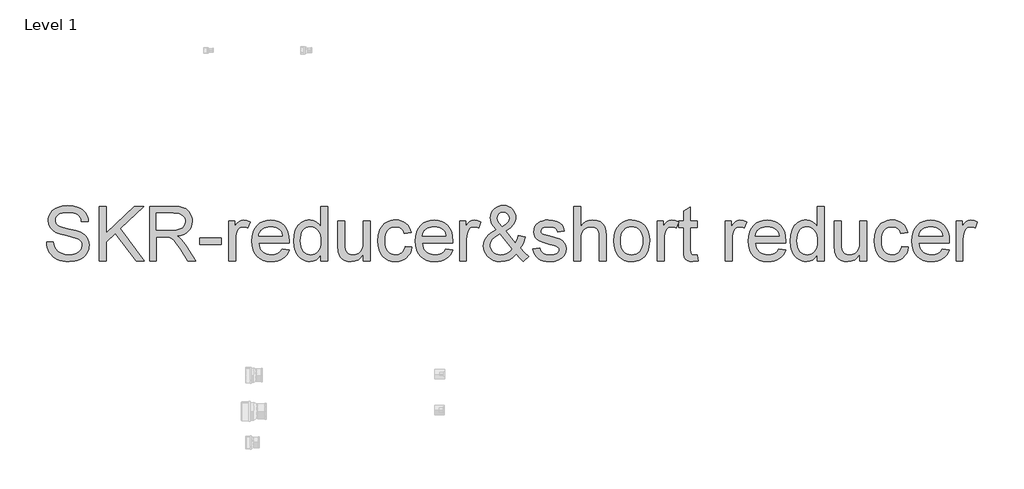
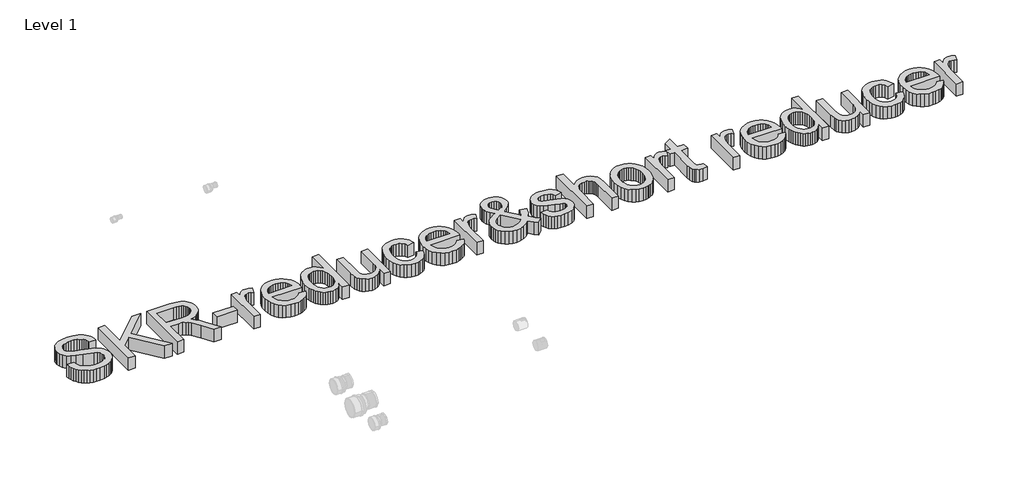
# One storey, part 13 of 29: 1 proxy.
"""IFC4 building model written with IfcOpenShell, lengths in millimetres."""

from ifc_helpers import new_model, si_unit, origin, origin_with_axes, place, context, project, spatial, polyline, outline, extrude, element, save

model = new_model("IFC4")

# Units and contexts
model_context = context("Model", 3, world=origin())
ifc_project = project(units=[si_unit("LENGTHUNIT", "METRE", prefix="MILLI")], contexts=[model_context])

# Site, building, storey
site = spatial("IfcSite", under=ifc_project)
building = spatial("IfcBuilding", under=site)
storey = spatial("IfcBuildingStorey", under=building, Name="Level 1", Elevation=0.0)

# Proxy
placement = place(None, origin())
element("IfcBuildingElementProxy", 1, Name="600mm Arial", ObjectType="600mm Arial", at=placement, inside=storey, context=model_context, shape_type="SweptSolid", body=[
    extrude(outline(polyline([(-4280.3714244, -4387.033633), (-4205.0291917, -4387.033633), (-4196.3839649, -4428.8434217), (-4180.7489801, -4462.449442), (-4156.3584038, -4489.1208867), (-4121.4464024, -4510.1269486), (-4078.772091, -4523.7569765), (-4031.0945844, -4528.3003191), (-3989.1192488, -4524.8606225), (-3952.3678375, -4514.5415325), (-3922.5877899, -4498.2075719), (-3901.5265457, -4476.7232634), (-3889.0001638, -4452.0567756), (-3884.8247031, -4426.1762773), (-3887.9517001, -4400.9579665), (-3897.332691, -4379.1609583), (-3916.3889783, -4360.5645234), (-3948.5418647, -4344.9479327), (-4058.2442757, -4316.1795607), (-4130.2571762, -4297.1416675), (-4176.3343961, -4279.0234792), (-4213.8399655, -4253.6764097), (-4240.4194397, -4222.9582631), (-4256.2567596, -4187.531227), (-4261.5358662, -4148.0574889), (-4259.9033898, -4125.6212857), (-4255.0059608, -4103.9300436), (-4246.843579, -4082.9837625), (-4235.4162445, -4062.7824424), (-4220.8527161, -4044.1492194), (-4203.2817523, -4027.9072293), (-4182.7033532, -4014.0564722), (-4159.1175187, -4002.596948), (-4106.1057232, -3987.2010865), (-4047.428545, -3982.0691327), (-3983.8585362, -3987.4402098), (-3928.2347786, -4003.5534412), (-3903.8993846, -4015.5555913), (-3882.5438348, -4030.0777331), (-3864.1681291, -4047.1198665), (-3848.7722676, -4066.6819916), (-3836.4758119, -4088.1938913), (-3827.3983237, -4111.0853484), (-3821.5398029, -4135.356363), (-3818.9002496, -4161.0069352), (-3894.2424822, -4161.0069352), (-3899.2824656, -4136.9658468), (-3908.0748452, -4116.0517553), (-3920.6196213, -4098.2646609), (-3936.9167937, -4083.6045634), (-3957.269865, -4072.1450392), (-3981.9823381, -4063.9596648), (-4011.0542127, -4059.0484402), (-4044.485489, -4057.4113653), (-4078.9836231, -4059.0300461), (-4108.460168, -4063.8860884), (-4132.9151236, -4071.9794923), (-4152.34849, -4083.3102578), (-4167.1557403, -4096.9310886), (-4177.7323477, -4111.8946888), (-4184.0783121, -4128.2010582), (-4186.1936336, -4145.850197), (-4184.6945145, -4161.0345263), (-4180.1971571, -4174.80251), (-4172.7015614, -4187.154148), (-4162.2077275, -4198.0894403), (-4145.6898259, -4208.4453184), (-4119.6805689, -4218.9115612), (-4039.1879883, -4240.1751405), (-3956.1202338, -4260.3718621), (-3905.8675533, -4277.9934096), (-3862.9173303, -4305.3270419), (-3846.3120568, -4321.394288), (-3832.9533418, -4339.0618208), (-3822.6848356, -4358.2376698), (-3815.3501884, -4378.8298645), (-3809.4824705, -4424.2632909), (-3811.1701292, -4447.8307312), (-3816.2331051, -4470.7083928), (-3824.6713984, -4492.8962756), (-3836.485009, -4514.3943797), (-3851.4670032, -4534.3703721), (-3869.4104475, -4551.9919196), (-3890.3153419, -4567.2590224), (-3914.1816864, -4580.1716805), (-3940.3151036, -4590.4401867), (-3968.0212163, -4597.7748339), (-4028.1515285, -4603.6425518), (-4066.691766, -4602.0606592), (-4101.9670508, -4597.3149814), (-4133.9773829, -4589.4055185), (-4162.7227623, -4578.3322705), (-4188.3779329, -4564.0768432), (-4211.1176388, -4546.6208425), (-4230.9418798, -4525.9642685), (-4247.850656, -4502.1071211), (-4261.4714869, -4475.8219525), (-4271.4318919, -4447.881315), (-4277.731871, -4418.2852085), (-4280.3714244, -4387.033633)])), origin_with_axes(), (0.0, 0.0, 1.0), 150.0),
    extrude(outline(polyline([(-3696.4691216, -4594.2247727), (-3696.4691216, -3991.4869118), (-3621.126889, -3991.4869118), (-3621.126889, -4286.5282719), (-3312.106013, -3991.4869118), (-3206.7446096, -3991.4869118), (-3466.1749926, -4239.2922237), (-3197.3268306, -4594.2247727), (-3289.4444821, -4594.2247727), (-3519.5914583, -4290.2070919), (-3621.126889, -4387.033633), (-3621.126889, -4594.2247727), (-3696.4691216, -4594.2247727)])), origin_with_axes(), (0.0, 0.0, 1.0), 150.0),
    extrude(outline(polyline([(-3140.8201561, -4594.2247727), (-3140.8201561, -3991.4869118), (-2881.0954675, -3991.4869118), (-2811.2898589, -3995.5520078), (-2760.5037495, -4007.747296), (-2740.9048362, -4017.4409865), (-2723.3844562, -4030.2616741), (-2707.9426094, -4046.2093586), (-2694.5792959, -4065.28404), (-2683.795755, -4086.4602474), (-2676.0932257, -4108.7125095), (-2671.4717081, -4132.0408266), (-2669.9312023, -4156.4451984), (-2672.4833836, -4187.4024683), (-2680.1399276, -4215.8213524), (-2692.9008343, -4241.7018508), (-2710.7661037, -4265.0439634), (-2733.9656621, -4285.1027292), (-2762.7294356, -4301.1331871), (-2797.0574242, -4313.1353372), (-2836.9496281, -4321.1091795), (-2812.1175934, -4337.3327754), (-2794.1281638, -4353.3356422), (-2763.2628644, -4389.9399008), (-2733.0597526, -4430.8851668), (-2632.5543916, -4594.2247727), (-2720.1103064, -4594.2247727), (-2798.5427478, -4469.2920471), (-2855.196575, -4386.5921746), (-2876.2578193, -4362.4775098), (-2895.0014069, -4347.5231067), (-2930.8331132, -4333.1757089), (-2974.5374943, -4330.5269585), (-3065.4779235, -4330.5269585), (-3065.4779235, -4594.2247727), (-3140.8201561, -4594.2247727)]), holes=[polyline([(-3065.4779235, -4255.1847259), (-2896.8408169, -4255.1847259), (-2848.4091522, -4252.5175815), (-2810.8300064, -4244.5161481), (-2782.539881, -4230.6469968), (-2761.9752775, -4210.3766989), (-2749.4488955, -4185.8573639), (-2745.2734349, -4159.2411016), (-2747.2645962, -4139.9732821), (-2753.2380801, -4122.4896903), (-2763.1938866, -4106.7903261), (-2777.1320157, -4092.8751897), (-2795.3743641, -4081.4800448), (-2818.2428286, -4073.3406557), (-2845.7374092, -4068.4570222), (-2877.8581059, -4066.8291444), (-3065.4779235, -4066.8291444), (-3065.4779235, -4255.1847259)])]), origin_with_axes(), (0.0, 0.0, 1.0), 150.0),
    extrude(outline(polyline([(-2585.1711906, -4415.2869702), (-2585.1711906, -4339.9447376), (-2349.7267137, -4339.9447376), (-2349.7267137, -4415.2869702), (-2585.1711906, -4415.2869702)])), origin_with_axes(), (0.0, 0.0, 1.0), 150.0),
    extrude(outline(polyline([(-2264.966702, -4594.2247727), (-2264.966702, -4151.5891561), (-2199.0422484, -4151.5891561), (-2199.0422484, -4217.0721512), (-2174.6884604, -4179.1067293), (-2152.2476587, -4156.739504), (-2129.7332806, -4145.8134088), (-2105.1587633, -4142.171377), (-2067.6347998, -4147.9839125), (-2029.5222251, -4165.4215191), (-2054.6853535, -4232.9646534), (-2081.1728572, -4221.3763706), (-2107.6603608, -4217.5136096), (-2130.1563448, -4221.2292178), (-2150.2610959, -4232.3760422), (-2166.503086, -4250.1079544), (-2177.4107871, -4273.5788257), (-2186.5710488, -4315.6645259), (-2189.6244694, -4361.5761989), (-2189.6244694, -4594.2247727), (-2264.966702, -4594.2247727)])), origin_with_axes(), (0.0, 0.0, 1.0), 150.0),
    extrude(outline(polyline([(-1672.5295369, -4462.3758656), (-1598.6588323, -4471.7936447), (-1609.9849992, -4501.3805541), (-1625.2750947, -4527.4541906), (-1644.5291186, -4550.0145539), (-1667.747071, -4569.0616442), (-1694.6898286, -4584.1907913), (-1725.1182682, -4594.9973249), (-1759.0323896, -4601.481245), (-1796.4321929, -4603.6425518), (-1843.1807975, -4599.913148), (-1884.8342364, -4588.7249368), (-1921.3925096, -4570.0779182), (-1952.8556173, -4543.9720921), (-1978.1567015, -4511.1340255), (-1996.2289045, -4472.2902854), (-2007.0722263, -4427.4408716), (-2010.6866669, -4376.5857843), (-2007.0354381, -4324.0062502), (-1996.0817517, -4277.6623158), (-1977.8256077, -4237.5539813), (-1952.2670061, -4203.6812466), (-1920.8866719, -4176.7706787), (-1885.1653302, -4157.5488444), (-1845.1029809, -4146.0157439), (-1800.6996241, -4142.171377), (-1757.7264085, -4146.0065468), (-1718.8642742, -4157.5120562), (-1684.1132213, -4176.6879052), (-1653.4732496, -4203.5340938), (-1628.4618724, -4237.3332521), (-1610.5966031, -4277.3680102), (-1599.8774414, -4323.6383682), (-1596.3043875, -4376.1443259), (-1596.7458459, -4396.4514121), (-1935.3444343, -4396.4514121), (-1930.9804341, -4426.5165681), (-1922.3030176, -4452.8477219), (-1909.3121846, -4475.4448735), (-1892.0079353, -4494.3080228), (-1871.3467627, -4509.1796524), (-1848.2851601, -4519.8022451), (-1822.8231275, -4526.1758006), (-1794.9606649, -4528.3003191), (-1754.8615275, -4524.3639818), (-1721.0899603, -4512.5549697), (-1693.6459635, -4492.137519), (-1672.5295369, -4462.3758656)]), holes=[polyline([(-1935.3444343, -4321.1091795), (-1671.6466202, -4321.1091795), (-1681.8369514, -4281.3043476), (-1690.60174, -4265.6509687), (-1701.8129438, -4252.8302812), (-1722.3591532, -4237.3792374), (-1745.738054, -4226.3427775), (-1771.9496461, -4219.7209016), (-1800.9939297, -4217.5136096), (-1827.4860318, -4219.2748447), (-1851.7800391, -4224.5585498), (-1873.8759514, -4233.3647251), (-1893.7737688, -4245.6933704), (-1910.4710129, -4260.9742688), (-1922.9652052, -4278.6372031), (-1931.2563456, -4298.6821733), (-1935.3444343, -4321.1091795)])]), origin_with_axes(), (0.0, 0.0, 1.0), 150.0),
    extrude(outline(polyline([(-1247.8465617, -4594.2247727), (-1247.8465617, -4523.1499712), (-1270.388531, -4558.3654752), (-1297.6945721, -4583.5194066), (-1329.764685, -4598.6117655), (-1366.5988698, -4603.6425518), (-1391.4676926, -4601.8215359), (-1415.3064459, -4596.3584882), (-1438.1151296, -4587.2534089), (-1459.8937437, -4574.5062977), (-1479.9617066, -4558.4988324), (-1497.6384364, -4539.6126905), (-1512.9239333, -4517.847872), (-1525.8181973, -4493.2043768), (-1536.0545138, -4466.1512546), (-1543.3661684, -4437.1575548), (-1549.2154922, -4373.3484228), (-1543.8260209, -4310.330237), (-1527.6576072, -4253.4188923), (-1515.5358955, -4228.0626258), (-1500.7286452, -4205.8517504), (-1483.2358563, -4186.786266), (-1463.0575289, -4170.8661726), (-1440.9064343, -4158.3121995), (-1417.4953438, -4149.3450759), (-1392.8242575, -4143.9648017), (-1366.8931754, -4142.171377), (-1330.0313994, -4147.3033308), (-1297.4370547, -4162.6991923), (-1269.8091168, -4186.2988223), (-1247.8465617, -4216.0420816), (-1247.8465617, -3991.4869118), (-1172.5043291, -3991.4869118), (-1172.5043291, -4594.2247727), (-1247.8465617, -4594.2247727)]), holes=[polyline([(-1473.8732595, -4373.0541172), (-1471.748741, -4409.5893978), (-1465.3751855, -4441.2042568), (-1454.7525928, -4467.8986941), (-1439.8809632, -4489.6727096), (-1422.1214599, -4506.5722888), (-1402.8352463, -4518.6434168), (-1382.0223224, -4525.8860935), (-1359.6826882, -4528.3003191), (-1337.237288, -4525.9964581), (-1316.5485243, -4519.0848752), (-1297.6163971, -4507.5655702), (-1280.4409065, -4491.4385432), (-1266.1808806, -4470.5750356), (-1255.9951479, -4444.8462885), (-1249.8837083, -4414.2523021), (-1247.8465617, -4378.7930763), (-1249.9204965, -4339.9171465), (-1256.1423007, -4306.5778406), (-1266.5119744, -4278.7751589), (-1281.0295177, -4256.5091011), (-1298.5820874, -4239.4485736), (-1318.0568405, -4227.2624825), (-1339.453777, -4219.9508278), (-1362.772897, -4217.5136096), (-1385.5539896, -4219.8542588), (-1406.3669134, -4226.8762064), (-1425.2116686, -4238.5794524), (-1442.0882552, -4254.9639967), (-1455.9941946, -4276.3885244), (-1465.9270085, -4303.2117204), (-1471.8866968, -4335.4335846), (-1473.8732595, -4373.0541172)])]), origin_with_axes(), (0.0, 0.0, 1.0), 150.0),
    extrude(outline(polyline([(-776.9576079, -4594.2247727), (-776.9576079, -4518.1467761), (-804.2176637, -4555.5511779), (-835.9658799, -4582.2686078), (-872.2022564, -4598.2990658), (-912.9267933, -4603.6425518), (-949.6230223, -4599.8901554), (-983.7808656, -4588.6329664), (-1012.438873, -4571.7103946), (-1032.6355945, -4550.96185), (-1046.2288343, -4525.7619334), (-1055.0763962, -4495.4852452), (-1059.4909802, -4425.4405133), (-1059.4909802, -4151.5891561), (-984.1487476, -4151.5891561), (-984.1487476, -4389.976689), (-983.0083134, -4437.6541955), (-979.5870108, -4466.7904495), (-968.6057333, -4492.4134305), (-949.7885692, -4511.8927822), (-924.3863175, -4524.1984349), (-893.6497768, -4528.3003191), (-861.1474025, -4524.1064644), (-830.7419556, -4511.5249002), (-805.6707976, -4491.7144547), (-789.1712901, -4465.8339564), (-780.0110284, -4430.3885261), (-776.9576079, -4381.8832851), (-776.9576079, -4151.5891561), (-701.6153753, -4151.5891561), (-701.6153753, -4594.2247727), (-776.9576079, -4594.2247727)])), origin_with_axes(), (0.0, 0.0, 1.0), 150.0),
    extrude(outline(polyline([(-315.4864331, -4434.1225284), (-240.1442005, -4443.5403075), (-248.338772, -4479.0915038), (-261.1502624, -4510.5500129), (-278.578672, -4537.9158348), (-300.6240005, -4561.1889695), (-326.3573461, -4579.7624117), (-354.8498066, -4593.0291562), (-386.1013821, -4600.9892029), (-420.1120726, -4603.6425518), (-462.3679182, -4599.9407392), (-500.2551652, -4588.8353014), (-533.7738135, -4570.3262386), (-562.9238631, -4544.4135505), (-586.5188946, -4511.584681), (-603.3724885, -4472.3270736), (-613.4846448, -4426.6407283), (-616.8553636, -4374.5256452), (-611.0980104, -4307.4791515), (-603.9013188, -4277.3082294), (-593.8259507, -4249.3721904), (-580.8029281, -4224.2320546), (-564.7632731, -4202.4488419), (-545.7069857, -4184.0225525), (-523.634066, -4168.9531863), (-499.5423938, -4157.2361447), (-474.4298492, -4148.8668293), (-448.2964319, -4143.8452401), (-421.1421422, -4142.171377), (-387.7154644, -4144.4706395), (-357.4801629, -4151.3684269), (-330.4362377, -4162.8647392), (-306.5836889, -4178.9595765), (-286.3271865, -4199.2850568), (-270.0714008, -4223.4732979), (-257.8163319, -4251.5243001), (-249.5619796, -4283.4380632), (-324.9042122, -4292.8558422), (-338.5710283, -4259.985586), (-359.8530018, -4236.4227442), (-387.5729101, -4222.2408933), (-420.553531, -4217.5136096), (-446.1535193, -4219.8404632), (-469.242713, -4226.8210241), (-489.8211121, -4238.4552922), (-507.8887166, -4254.7432675), (-522.5993979, -4276.0620291), (-533.1070274, -4302.7886561), (-539.4116051, -4334.9231484), (-541.513131, -4372.465506), (-539.4575903, -4410.5734822), (-533.2909684, -4443.080455), (-523.0132651, -4469.9864244), (-508.6244806, -4491.2913904), (-490.9155611, -4507.4827967), (-470.6774528, -4519.048087), (-447.9101558, -4525.9872611), (-422.6136701, -4528.3003191), (-383.5997845, -4522.5245718), (-366.7277965, -4515.3048877), (-351.6124451, -4505.1973298), (-338.6767944, -4492.0915338), (-328.3439089, -4475.8771348), (-320.6137884, -4456.554133), (-315.4864331, -4434.1225284)])), origin_with_axes(), (0.0, 0.0, 1.0), 150.0),
    extrude(outline(polyline([(135.6840457, -4462.3758656), (209.5547504, -4471.7936447), (198.2285835, -4501.3805541), (182.938488, -4527.4541906), (163.6844641, -4550.0145539), (140.4665117, -4569.0616442), (113.5237541, -4584.1907913), (83.0953145, -4594.9973249), (49.1811931, -4601.481245), (11.7813898, -4603.6425518), (-34.9672148, -4599.913148), (-76.6206537, -4588.7249368), (-113.1789269, -4570.0779182), (-144.6420346, -4543.9720921), (-169.9431188, -4511.1340255), (-188.0153218, -4472.2902854), (-198.8586436, -4427.4408716), (-202.4730842, -4376.5857843), (-198.8218554, -4324.0062502), (-187.868169, -4277.6623158), (-169.612025, -4237.5539813), (-144.0534234, -4203.6812466), (-112.6730892, -4176.7706787), (-76.9517475, -4157.5488444), (-36.8893982, -4146.0157439), (7.5139586, -4142.171377), (50.4871742, -4146.0065468), (89.3493085, -4157.5120562), (124.1003614, -4176.6879052), (154.7403331, -4203.5340938), (179.7517102, -4237.3332521), (197.6169796, -4277.3680102), (208.3361413, -4323.6383682), (211.9091951, -4376.1443259), (211.4677368, -4396.4514121), (-127.1308516, -4396.4514121), (-122.7668514, -4426.5165681), (-114.0894349, -4452.8477219), (-101.0986019, -4475.4448735), (-83.7943526, -4494.3080228), (-63.13318, -4509.1796524), (-40.0715774, -4519.8022451), (-14.6095449, -4526.1758006), (13.2529178, -4528.3003191), (53.3520552, -4524.3639818), (87.1236224, -4512.5549697), (114.5676192, -4492.137519), (135.6840457, -4462.3758656)]), holes=[polyline([(-127.1308516, -4321.1091795), (136.5669625, -4321.1091795), (126.3766313, -4281.3043476), (117.6118427, -4265.6509687), (106.4006389, -4252.8302812), (85.8544295, -4237.3792374), (62.4755287, -4226.3427775), (36.2639366, -4219.7209016), (7.219653, -4217.5136096), (-19.2724491, -4219.2748447), (-43.5664564, -4224.5585498), (-65.6623687, -4233.3647251), (-85.5601862, -4245.6933704), (-102.2574302, -4260.9742688), (-114.7516225, -4278.6372031), (-123.0427629, -4298.6821733), (-127.1308516, -4321.1091795)])]), origin_with_axes(), (0.0, 0.0, 1.0), 150.0),
    extrude(outline(polyline([(287.2514278, -4594.2247727), (287.2514278, -4151.5891561), (353.1758813, -4151.5891561), (353.1758813, -4217.0721512), (377.5296694, -4179.1067293), (399.9704711, -4156.739504), (422.4848492, -4145.8134088), (447.0593665, -4142.171377), (484.58333, -4147.9839125), (522.6959047, -4165.4215191), (497.5327762, -4232.9646534), (471.0452726, -4221.3763706), (444.5577689, -4217.5136096), (422.0617849, -4221.2292178), (401.9570339, -4232.3760422), (385.7150438, -4250.1079544), (374.8073426, -4273.5788257), (365.6470809, -4315.6645259), (362.5936604, -4361.5761989), (362.5936604, -4594.2247727), (287.2514278, -4594.2247727)])), origin_with_axes(), (0.0, 0.0, 1.0), 150.0),
    extrude(outline(polyline([(915.4467227, -4519.7654569), (877.150207, -4556.4616859), (835.5427534, -4582.673278), (790.5507854, -4598.4002333), (742.1007266, -4603.6425518), (698.1388282, -4599.7613967), (658.9593957, -4588.1179316), (624.5624291, -4568.7121563), (594.9479285, -4541.544071), (575.6985031, -4515.4888287), (561.9489136, -4487.9436643), (553.6991598, -4458.9085778), (550.9492419, -4428.3835693), (553.1611324, -4401.3166515), (559.7968039, -4375.5925029), (570.8562564, -4351.2111237), (586.3394898, -4328.1725138), (606.2189132, -4306.4858701), (630.4669352, -4286.1603899), (659.0835559, -4267.1960731), (692.0687753, -4249.5929196), (659.198519, -4207.065761), (639.4616499, -4173.3677702), (629.5840184, -4144.5993982), (626.2914745, -4116.8610957), (628.8850426, -4090.5299419), (636.6657468, -4065.9830158), (649.6335871, -4043.2203174), (667.7885636, -4022.2418466), (689.8706803, -4004.6662843), (714.6199416, -3992.1123112), (742.0363472, -3984.5799273), (772.1198974, -3982.0691327), (800.8422842, -3984.4695627), (826.8239501, -3991.6708528), (850.0648951, -4003.6730029), (870.5651193, -4020.476013), (887.3037501, -4040.6451434), (899.2599149, -4062.7456542), (906.4336138, -4086.7775456), (908.8248468, -4112.7408174), (907.0544147, -4134.1239584), (901.7431184, -4154.716153), (892.8909579, -4174.5174014), (880.4979332, -4193.5277035), (845.0892911, -4229.1754689), (795.5171923, -4261.659449), (904.5574157, -4397.4814817), (923.1354564, -4358.6699312), (937.078184, -4314.0458452), (1012.4204167, -4330.3798057), (989.243851, -4400.1670202), (975.062, -4429.2388949), (959.1511038, -4454.4296145), (1001.972568, -4504.3879895), (1050.091533, -4545.6643493), (993.5848585, -4603.6425518), (955.14119, -4568.473033), (915.4467227, -4519.7654569)]), holes=[polyline([(864.973313, -4465.4660744), (730.4756556, -4297.5647318), (679.1009349, -4330.3430175), (647.7022066, -4360.6932821), (631.6441575, -4389.6823834), (626.2914745, -4418.377179), (628.1216874, -4435.9803325), (633.6123262, -4453.9145797), (655.5748813, -4490.7763556), (671.743295, -4507.1930897), (690.9651293, -4518.9193283), (713.2403841, -4525.9550714), (738.5690594, -4528.3003191), (772.6533263, -4523.9225234), (807.8044509, -4510.7891362), (839.9389432, -4490.7027792), (864.973313, -4465.4660744)]), polyline([(757.4046176, -4214.1290953), (796.8047793, -4189.1315137), (819.3559456, -4167.4080819), (829.950947, -4146.2732613), (833.4826142, -4123.0415133), (828.828907, -4096.7195565), (814.8677852, -4075.7318887), (793.9169056, -4061.9914962), (768.2939247, -4057.4113653), (742.1191207, -4061.954708), (720.6899945, -4075.5847359), (706.397779, -4095.7630633), (701.6337071, -4119.9513045), (708.1084302, -4147.5424541), (727.6797524, -4178.2238125), (757.4046176, -4214.1290953)])]), origin_with_axes(), (0.0, 0.0, 1.0), 150.0),
    extrude(outline(polyline([(1097.1804283, -4462.3758656), (1172.522661, -4452.9580865), (1177.0752006, -4470.1381757), (1184.4052494, -4485.1845493), (1194.5128072, -4498.0972073), (1207.3978741, -4508.8761498), (1223.0972382, -4517.3742239), (1241.6476878, -4523.4442768), (1287.3018434, -4528.3003191), (1332.4041761, -4523.848947), (1349.9337531, -4518.2847318), (1364.115604, -4510.4948306), (1382.8775858, -4491.1442376), (1387.5680812, -4480.3101129), (1389.1315797, -4468.7034359), (1387.5588842, -4458.5314988), (1382.8407976, -4449.4999958), (1363.9684512, -4434.8582924), (1335.7519022, -4425.2933605), (1286.4189267, -4413.3739838), (1217.6617818, -4393.489962), (1172.9641193, -4376.5122079), (1144.2509296, -4357.9893495), (1123.4472028, -4333.4700145), (1110.8104563, -4304.5177015), (1106.5982074, -4272.6959089), (1109.9827218, -4243.5044726), (1120.1362648, -4216.5571164), (1136.1391316, -4192.9206982), (1157.0716172, -4173.6620758), (1177.875344, -4161.540364), (1204.9698529, -4151.3684269), (1236.2950048, -4144.4706395), (1269.7906605, -4142.171377), (1318.8293304, -4145.8685911), (1361.4668537, -4156.9602332), (1395.7534556, -4174.3610516), (1419.7393617, -4196.9857943), (1435.6318639, -4226.5083244), (1445.6382542, -4264.602505), (1370.2960216, -4274.0202841), (1360.786272, -4250.3102895), (1341.9691079, -4232.4496186), (1313.6605884, -4221.2476119), (1275.6767724, -4217.5136096), (1232.4138498, -4221.082065), (1203.5719013, -4231.787431), (1187.3483054, -4247.2384748), (1181.94044, -4265.0439634), (1184.1845202, -4276.6322462), (1190.9167607, -4286.9697303), (1202.4314672, -4296.2035684), (1219.0229451, -4303.5979965), (1283.9173291, -4319.6376515), (1394.5026568, -4355.1014758), (1423.7124873, -4372.0608358), (1445.8589834, -4395.2741897), (1459.8201051, -4424.8151139), (1464.4738123, -4460.7571848), (1459.0107647, -4497.9132663), (1442.6216218, -4532.8620559), (1415.9317831, -4562.8628326), (1379.5666478, -4585.1748756), (1335.6415376, -4599.0256327), (1286.2717739, -4603.6425518), (1245.7219809, -4601.4168657), (1210.3041419, -4594.7398075), (1180.0182566, -4583.6113771), (1154.8643252, -4568.0315746), (1134.3181158, -4548.0739764), (1117.8553965, -4523.8121588), (1105.4761673, -4495.2461219), (1097.1804283, -4462.3758656)])), origin_with_axes(), (0.0, 0.0, 1.0), 150.0),
    extrude(outline(polyline([(1549.233824, -4594.2247727), (1549.233824, -3991.4869118), (1624.5760566, -3991.4869118), (1624.5760566, -4213.0990257), (1652.2499797, -4182.0681794), (1683.3268113, -4159.9032892), (1717.8065513, -4146.604355), (1755.6891997, -4142.171377), (1801.1962025, -4147.0090252), (1840.3020586, -4161.52197), (1871.0937816, -4184.5697769), (1891.6583851, -4215.012012), (1903.246668, -4256.8401949), (1907.1094289, -4314.0458452), (1907.1094289, -4594.2247727), (1831.7671963, -4594.2247727), (1831.7671963, -4321.8449434), (1830.2680772, -4296.4059035), (1825.7707198, -4274.6824717), (1818.2751241, -4256.674648), (1807.7812902, -4242.3824325), (1794.5375384, -4231.5023225), (1778.792189, -4223.7308153), (1760.545242, -4219.067911), (1739.7966975, -4217.5136096), (1707.9565108, -4221.7074644), (1678.0660987, -4234.2890286), (1653.3076405, -4254.0442917), (1636.8633153, -4279.7592432), (1627.6478713, -4313.9354806), (1624.5760566, -4359.0746014), (1624.5760566, -4594.2247727), (1549.233824, -4594.2247727)])), origin_with_axes(), (0.0, 0.0, 1.0), 150.0),
    extrude(outline(polyline([(1991.8694406, -4372.9069644), (1995.9437337, -4315.5817525), (2008.166613, -4266.1843976), (2028.5380785, -4224.7148997), (2057.0581302, -4191.1732588), (2085.7713199, -4169.7349355), (2117.4643538, -4154.4218474), (2152.1372318, -4145.2339946), (2189.789954, -4142.171377), (2231.3560209, -4145.9007807), (2268.9397653, -4157.0889919), (2302.541187, -4175.7360105), (2332.1602862, -4201.8418366), (2356.3347318, -4234.5235534), (2373.6021929, -4272.898244), (2383.9626696, -4316.9659085), (2387.4161618, -4366.7265469), (2385.8894515, -4407.0556106), (2381.3093207, -4442.8413317), (2373.6757693, -4474.0837101), (2362.9887973, -4500.7827459), (2349.3817621, -4523.8443485), (2332.9880206, -4544.1744272), (2313.8075731, -4561.7729822), (2291.8404195, -4576.6400133), (2267.9418854, -4588.4536239), (2242.9672964, -4596.8919171), (2216.9166526, -4601.9548931), (2189.789954, -4603.6425518), (2147.6168818, -4599.9269436), (2109.6836496, -4588.7801191), (2075.9902573, -4570.2020784), (2046.5367051, -4544.1928213), (2022.6197769, -4511.1938064), (2005.5362567, -4471.6464919), (1995.2861446, -4425.5508779), (1991.8694406, -4372.9069644)]), holes=[polyline([(2067.2116732, -4372.7598116), (2069.391374, -4409.3042893), (2075.9304765, -4440.9467394), (2086.8289806, -4467.6871619), (2102.0868864, -4489.5255568), (2120.646533, -4506.4895154), (2141.4502599, -4518.6066286), (2164.4980668, -4525.8768965), (2189.789954, -4528.3003191), (2214.9530825, -4525.8631009), (2237.908919, -4518.5514463), (2258.6574635, -4506.3653552), (2277.1987161, -4489.3048277), (2292.4566218, -4467.250302), (2303.3551259, -4440.0822167), (2309.8942284, -4407.8005716), (2312.0739292, -4370.4053668), (2309.8804328, -4335.0197174), (2303.2999436, -4304.2050018), (2292.3324616, -4277.9612199), (2276.9779869, -4256.2883719), (2258.3677564, -4239.3244134), (2237.6330075, -4227.2073002), (2214.77374, -4219.9370323), (2189.789954, -4217.5136096), (2164.4980668, -4219.9278352), (2141.4502599, -4227.170512), (2120.646533, -4239.24164), (2102.0868864, -4256.1412191), (2086.8289806, -4277.9152347), (2075.9304765, -4304.609672), (2069.391374, -4336.2245309), (2067.2116732, -4372.7598116)])]), origin_with_axes(), (0.0, 0.0, 1.0), 150.0),
    extrude(outline(polyline([(2472.1761735, -4594.2247727), (2472.1761735, -4151.5891561), (2538.1006271, -4151.5891561), (2538.1006271, -4217.0721512), (2562.4544151, -4179.1067293), (2584.8952168, -4156.739504), (2607.4095949, -4145.8134088), (2631.9841122, -4142.171377), (2669.5080757, -4147.9839125), (2707.6206504, -4165.4215191), (2682.457522, -4232.9646534), (2655.9700183, -4221.3763706), (2629.4825147, -4217.5136096), (2606.9865306, -4221.2292178), (2586.8817796, -4232.3760422), (2570.6397895, -4250.1079544), (2559.7320884, -4273.5788257), (2550.5718267, -4315.6645259), (2547.5184061, -4361.5761989), (2547.5184061, -4594.2247727), (2472.1761735, -4594.2247727)])), origin_with_axes(), (0.0, 0.0, 1.0), 150.0),
    extrude(outline(polyline([(2914.8117901, -4531.3905279), (2924.2295692, -4596.4320646), (2867.8700475, -4603.6425518), (2831.7072474, -4600.5155548), (2804.7414972, -4591.1345639), (2785.6852098, -4576.6768015), (2773.2507984, -4558.3194899), (2766.4081933, -4526.792003), (2764.1273249, -4472.8237143), (2764.1273249, -4226.9313887), (2707.6206504, -4226.9313887), (2707.6206504, -4151.5891561), (2764.1273249, -4151.5891561), (2764.1273249, -4044.0204607), (2839.4695575, -3999.7274685), (2839.4695575, -4151.5891561), (2914.8117901, -4151.5891561), (2914.8117901, -4226.9313887), (2839.4695575, -4226.9313887), (2839.4695575, -4470.6164223), (2843.442683, -4509.464761), (2856.3185529, -4523.2235476), (2867.1894658, -4527.0311263), (2881.9967161, -4528.3003191), (2914.8117901, -4531.3905279)])), origin_with_axes(), (0.0, 0.0, 1.0), 150.0),
    extrude(outline(polyline([(3225.5984996, -4594.2247727), (3225.5984996, -4151.5891561), (3291.5229532, -4151.5891561), (3291.5229532, -4217.0721512), (3315.8767413, -4179.1067293), (3338.317543, -4156.739504), (3360.8319211, -4145.8134088), (3385.4064383, -4142.171377), (3422.9304019, -4147.9839125), (3461.0429766, -4165.4215191), (3435.8798481, -4232.9646534), (3409.3923444, -4221.3763706), (3382.9048408, -4217.5136096), (3360.4088568, -4221.2292178), (3340.3041057, -4232.3760422), (3324.0621156, -4250.1079544), (3313.1544145, -4273.5788257), (3303.9941528, -4315.6645259), (3300.9407322, -4361.5761989), (3300.9407322, -4594.2247727), (3225.5984996, -4594.2247727)])), origin_with_axes(), (0.0, 0.0, 1.0), 150.0),
    extrude(outline(polyline([(3818.0356647, -4462.3758656), (3891.9063693, -4471.7936447), (3880.5802024, -4501.3805541), (3865.290107, -4527.4541906), (3846.036083, -4550.0145539), (3822.8181306, -4569.0616442), (3795.875373, -4584.1907913), (3765.4469335, -4594.9973249), (3731.532812, -4601.481245), (3694.1330087, -4603.6425518), (3647.3844042, -4599.913148), (3605.7309653, -4588.7249368), (3569.172692, -4570.0779182), (3537.7095843, -4543.9720921), (3512.4085001, -4511.1340255), (3494.3362971, -4472.2902854), (3483.4929753, -4427.4408716), (3479.8785347, -4376.5857843), (3483.5297635, -4324.0062502), (3494.4834499, -4277.6623158), (3512.7395939, -4237.5539813), (3538.2981955, -4203.6812466), (3569.6785297, -4176.7706787), (3605.3998715, -4157.5488444), (3645.4622207, -4146.0157439), (3689.8655776, -4142.171377), (3732.8387931, -4146.0065468), (3771.7009274, -4157.5120562), (3806.4519803, -4176.6879052), (3837.091952, -4203.5340938), (3862.1033292, -4237.3332521), (3879.9685986, -4277.3680102), (3890.6877602, -4323.6383682), (3894.2608141, -4376.1443259), (3893.8193557, -4396.4514121), (3555.2207673, -4396.4514121), (3559.5847675, -4426.5165681), (3568.262184, -4452.8477219), (3581.253017, -4475.4448735), (3598.5572663, -4494.3080228), (3619.2184389, -4509.1796524), (3642.2800415, -4519.8022451), (3667.7420741, -4526.1758006), (3695.6045367, -4528.3003191), (3735.7036741, -4524.3639818), (3769.4752413, -4512.5549697), (3796.9192381, -4492.137519), (3818.0356647, -4462.3758656)]), holes=[polyline([(3555.2207673, -4321.1091795), (3818.9185815, -4321.1091795), (3808.7282502, -4281.3043476), (3799.9634617, -4265.6509687), (3788.7522579, -4252.8302812), (3768.2060484, -4237.3792374), (3744.8271476, -4226.3427775), (3718.6155555, -4219.7209016), (3689.571272, -4217.5136096), (3663.0791698, -4219.2748447), (3638.7851625, -4224.5585498), (3616.6892502, -4233.3647251), (3596.7914328, -4245.6933704), (3580.0941887, -4260.9742688), (3567.5999965, -4278.6372031), (3559.308856, -4298.6821733), (3555.2207673, -4321.1091795)])]), origin_with_axes(), (0.0, 0.0, 1.0), 150.0),
    extrude(outline(polyline([(4242.7186399, -4594.2247727), (4242.7186399, -4523.1499712), (4220.1766706, -4558.3654752), (4192.8706296, -4583.5194066), (4160.8005166, -4598.6117655), (4123.9663319, -4603.6425518), (4099.097509, -4601.8215359), (4075.2587557, -4596.3584882), (4052.450072, -4587.2534089), (4030.6714579, -4574.5062977), (4010.603495, -4558.4988324), (3992.9267652, -4539.6126905), (3977.6412683, -4517.847872), (3964.7470043, -4493.2043768), (3954.5106878, -4466.1512546), (3947.1990332, -4437.1575548), (3941.3497095, -4373.3484228), (3946.7391807, -4310.330237), (3962.9075944, -4253.4188923), (3975.0293061, -4228.0626258), (3989.8365564, -4205.8517504), (4007.3293453, -4186.786266), (4027.5076727, -4170.8661726), (4049.6587674, -4158.3121995), (4073.0698578, -4149.3450759), (4097.7409441, -4143.9648017), (4123.6720263, -4142.171377), (4160.5338022, -4147.3033308), (4193.128147, -4162.6991923), (4220.7560848, -4186.2988223), (4242.7186399, -4216.0420816), (4242.7186399, -3991.4869118), (4318.0608725, -3991.4869118), (4318.0608725, -4594.2247727), (4242.7186399, -4594.2247727)]), holes=[polyline([(4016.6919421, -4373.0541172), (4018.8164606, -4409.5893978), (4025.1900162, -4441.2042568), (4035.8126088, -4467.8986941), (4050.6842384, -4489.6727096), (4068.4437417, -4506.5722888), (4087.7299553, -4518.6434168), (4108.5428792, -4525.8860935), (4130.8825134, -4528.3003191), (4153.3279136, -4525.9964581), (4174.0166773, -4519.0848752), (4192.9488045, -4507.5655702), (4210.1242951, -4491.4385432), (4224.384321, -4470.5750356), (4234.5700537, -4444.8462885), (4240.6814934, -4414.2523021), (4242.7186399, -4378.7930763), (4240.6447052, -4339.9171465), (4234.4229009, -4306.5778406), (4224.0532272, -4278.7751589), (4209.5356839, -4256.5091011), (4191.9831142, -4239.4485736), (4172.5083611, -4227.2624825), (4151.1114246, -4219.9508278), (4127.7923046, -4217.5136096), (4105.0112121, -4219.8542588), (4084.1982882, -4226.8762064), (4065.353533, -4238.5794524), (4048.4769464, -4254.9639967), (4034.571007, -4276.3885244), (4024.6381932, -4303.2117204), (4018.6785048, -4335.4335846), (4016.6919421, -4373.0541172)])]), origin_with_axes(), (0.0, 0.0, 1.0), 150.0),
    extrude(outline(polyline([(4713.6075937, -4594.2247727), (4713.6075937, -4518.1467761), (4686.3475379, -4555.5511779), (4654.5993217, -4582.2686078), (4618.3629452, -4598.2990658), (4577.6384083, -4603.6425518), (4540.9421793, -4599.8901554), (4506.784336, -4588.6329664), (4478.1263286, -4571.7103946), (4457.9296071, -4550.96185), (4444.3363674, -4525.7619334), (4435.4888054, -4495.4852452), (4431.0742214, -4425.4405133), (4431.0742214, -4151.5891561), (4506.416454, -4151.5891561), (4506.416454, -4389.976689), (4507.5568882, -4437.6541955), (4510.9781908, -4466.7904495), (4521.9594683, -4492.4134305), (4540.7766324, -4511.8927822), (4566.1788842, -4524.1984349), (4596.9154249, -4528.3003191), (4629.4177991, -4524.1064644), (4659.823246, -4511.5249002), (4684.894404, -4491.7144547), (4701.3939115, -4465.8339564), (4710.5541732, -4430.3885261), (4713.6075937, -4381.8832851), (4713.6075937, -4151.5891561), (4788.9498263, -4151.5891561), (4788.9498263, -4594.2247727), (4713.6075937, -4594.2247727)])), origin_with_axes(), (0.0, 0.0, 1.0), 150.0),
    extrude(outline(polyline([(5175.0787685, -4434.1225284), (5250.4210011, -4443.5403075), (5242.2264296, -4479.0915038), (5229.4149392, -4510.5500129), (5211.9865296, -4537.9158348), (5189.9412011, -4561.1889695), (5164.2078555, -4579.7624117), (5135.715395, -4593.0291562), (5104.4638195, -4600.9892029), (5070.453129, -4603.6425518), (5028.1972834, -4599.9407392), (4990.3100364, -4588.8353014), (4956.7913881, -4570.3262386), (4927.6413385, -4544.4135505), (4904.0463071, -4511.584681), (4887.1927132, -4472.3270736), (4877.0805568, -4426.6407283), (4873.709838, -4374.5256452), (4879.4671913, -4307.4791515), (4886.6638828, -4277.3082294), (4896.7392509, -4249.3721904), (4909.7622736, -4224.2320546), (4925.8019285, -4202.4488419), (4944.8582159, -4184.0225525), (4966.9311356, -4168.9531863), (4991.0228078, -4157.2361447), (5016.1353525, -4148.8668293), (5042.2687697, -4143.8452401), (5069.4230595, -4142.171377), (5102.8497373, -4144.4706395), (5133.0850387, -4151.3684269), (5160.1289639, -4162.8647392), (5183.9815128, -4178.9595765), (5204.2380151, -4199.2850568), (5220.4938008, -4223.4732979), (5232.7488697, -4251.5243001), (5241.003222, -4283.4380632), (5165.6609894, -4292.8558422), (5151.9941733, -4259.985586), (5130.7121999, -4236.4227442), (5102.9922915, -4222.2408933), (5070.0116707, -4217.5136096), (5044.4116823, -4219.8404632), (5021.3224886, -4226.8210241), (5000.7440895, -4238.4552922), (4982.676485, -4254.7432675), (4967.9658037, -4276.0620291), (4957.4581742, -4302.7886561), (4951.1535965, -4334.9231484), (4949.0520706, -4372.465506), (4951.1076113, -4410.5734822), (4957.2742332, -4443.080455), (4967.5519365, -4469.9864244), (4981.940721, -4491.2913904), (4999.6496406, -4507.4827967), (5019.8877488, -4519.048087), (5042.6550458, -4525.9872611), (5067.9515315, -4528.3003191), (5106.9654171, -4522.5245718), (5123.8374051, -4515.3048877), (5138.9527566, -4505.1973298), (5151.8884072, -4492.0915338), (5162.2212927, -4475.8771348), (5169.9514132, -4456.554133), (5175.0787685, -4434.1225284)])), origin_with_axes(), (0.0, 0.0, 1.0), 150.0),
    extrude(outline(polyline([(5626.2492474, -4462.3758656), (5700.119952, -4471.7936447), (5688.7937851, -4501.3805541), (5673.5036896, -4527.4541906), (5654.2496657, -4550.0145539), (5631.0317133, -4569.0616442), (5604.0889557, -4584.1907913), (5573.6605162, -4594.9973249), (5539.7463947, -4601.481245), (5502.3465914, -4603.6425518), (5455.5979869, -4599.913148), (5413.9445479, -4588.7249368), (5377.3862747, -4570.0779182), (5345.923167, -4543.9720921), (5320.6220828, -4511.1340255), (5302.5498798, -4472.2902854), (5291.706558, -4427.4408716), (5288.0921174, -4376.5857843), (5291.7433462, -4324.0062502), (5302.6970326, -4277.6623158), (5320.9531766, -4237.5539813), (5346.5117782, -4203.6812466), (5377.8921124, -4176.7706787), (5413.6134542, -4157.5488444), (5453.6758034, -4146.0157439), (5498.0791602, -4142.171377), (5541.0523758, -4146.0065468), (5579.9145101, -4157.5120562), (5614.665563, -4176.6879052), (5645.3055347, -4203.5340938), (5670.3169119, -4237.3332521), (5688.1821813, -4277.3680102), (5698.9013429, -4323.6383682), (5702.4743968, -4376.1443259), (5702.0329384, -4396.4514121), (5363.43435, -4396.4514121), (5367.7983502, -4426.5165681), (5376.4757667, -4452.8477219), (5389.4665997, -4475.4448735), (5406.770849, -4494.3080228), (5427.4320216, -4509.1796524), (5450.4936242, -4519.8022451), (5475.9556568, -4526.1758006), (5503.8181194, -4528.3003191), (5543.9172568, -4524.3639818), (5577.688824, -4512.5549697), (5605.1328208, -4492.137519), (5626.2492474, -4462.3758656)]), holes=[polyline([(5363.43435, -4321.1091795), (5627.1321642, -4321.1091795), (5616.9418329, -4281.3043476), (5608.1770443, -4265.6509687), (5596.9658405, -4252.8302812), (5576.4196311, -4237.3792374), (5553.0407303, -4226.3427775), (5526.8291382, -4219.7209016), (5497.7848546, -4217.5136096), (5471.2927525, -4219.2748447), (5446.9987452, -4224.5585498), (5424.9028329, -4233.3647251), (5405.0050155, -4245.6933704), (5388.3077714, -4260.9742688), (5375.8135791, -4278.6372031), (5367.5224387, -4298.6821733), (5363.43435, -4321.1091795)])]), origin_with_axes(), (0.0, 0.0, 1.0), 150.0),
    extrude(outline(polyline([(5777.8166294, -4594.2247727), (5777.8166294, -4151.5891561), (5843.7410829, -4151.5891561), (5843.7410829, -4217.0721512), (5868.094871, -4179.1067293), (5890.5356727, -4156.739504), (5913.0500508, -4145.8134088), (5937.6245681, -4142.171377), (5975.1485316, -4147.9839125), (6013.2611063, -4165.4215191), (5988.0979778, -4232.9646534), (5961.6104742, -4221.3763706), (5935.1229705, -4217.5136096), (5912.6269865, -4221.2292178), (5892.5222355, -4232.3760422), (5876.2802454, -4250.1079544), (5865.3725442, -4273.5788257), (5856.2122825, -4315.6645259), (5853.158862, -4361.5761989), (5853.158862, -4594.2247727), (5777.8166294, -4594.2247727)])), origin_with_axes(), (0.0, 0.0, 1.0), 150.0),
])

save(model, "model.ifc")
